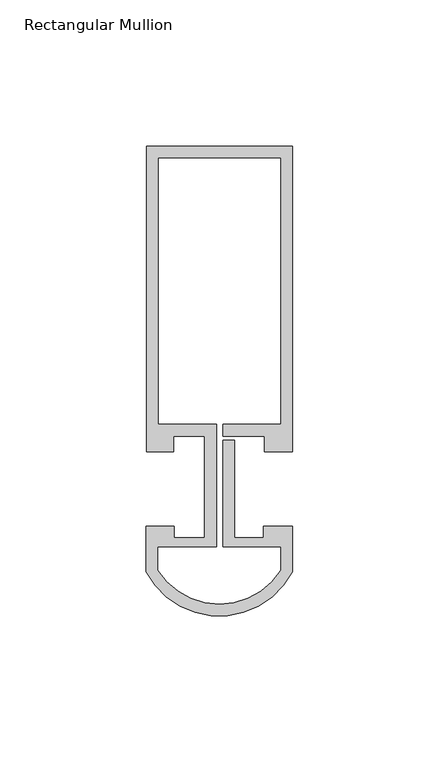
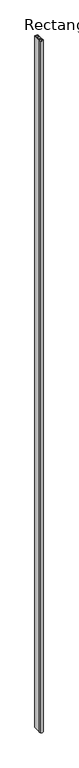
"""IFC4 building model written with IfcOpenShell, lengths in millimetres: member geometry, Rectangular Mullion : Reynaers_CW-50_Transom-Transom_Horizontal_104.5mm_Facecap-07."""

import ifcopenshell
import ifcopenshell.guid

model = None  # the IFC model being written
_history = None  # IfcOwnerHistory: only IFC2X3 demands one
_inside = {}  # id of a spatial element -> (the spatial element, [elements in it])
_under = {}  # id of a project, library or spatial element -> (it, [spatial elements below it])
_declared = {}  # id of a project -> (the project, [libraries it declares])
_typed = {}  # id of a type object -> (the type object, [elements of that type])
_made_of = {}  # id of a material, layer set ... -> (it, [elements and type objects made of it])


def new_model(schema):
    """Start an empty IFC model of exactly this schema.

    Asked for "IFC4X3", IfcOpenShell would pick the latest addendum, in which some entities
    have other attributes; the version numbers below select the first issue.
    IFC2X3 requires an IfcOwnerHistory on every rooted entity: one is made here for all.
    """
    global model, _history
    if schema == "IFC4X3":
        model = ifcopenshell.file(schema_version=(4, 3, 0, 0))
    else:
        model = ifcopenshell.file(schema=schema)
    _inside.clear()
    _under.clear()
    _declared.clear()
    _typed.clear()
    _made_of.clear()
    _history = None
    if model.schema == "IFC2X3":
        org = make("IfcOrganization", Name="unknown")
        user = make(
            "IfcPersonAndOrganization",
            ThePerson=make("IfcPerson", FamilyName="unknown"),
            TheOrganization=org,
        )
        app = make(
            "IfcApplication",
            ApplicationDeveloper=org,
            Version="unknown",
            ApplicationFullName="unknown",
            ApplicationIdentifier="unknown",
        )
        _history = make(
            "IfcOwnerHistory",
            OwningUser=user,
            OwningApplication=app,
            ChangeAction="ADDED",
            CreationDate=0,
        )
    return model


def make(cls, **values):
    """One entity of the class cls with the attributes given. An attribute that is None is left unset."""
    return model.create_entity(
        cls, **{name: value for name, value in values.items() if value is not None}
    )


def rooted(cls, **values):
    """An entity with a GlobalId (a new one), such as an element, a storey or a relation."""
    return make(cls, GlobalId=ifcopenshell.guid.new(), OwnerHistory=_history, **values)


def si_unit(unit_type, name, prefix=None):
    """IfcSIUnit, for example si_unit("LENGTHUNIT", "METRE", prefix="MILLI")."""
    return make("IfcSIUnit", UnitType=unit_type, Prefix=prefix, Name=name)


def assignment(units):
    """IfcUnitAssignment: the units of a project."""
    return None if units is None else make("IfcUnitAssignment", Units=units)


def point(xyz):
    """IfcCartesianPoint."""
    return None if xyz is None else make("IfcCartesianPoint", Coordinates=xyz)


def direction(xyz):
    """IfcDirection."""
    return None if xyz is None else make("IfcDirection", DirectionRatios=xyz)


def frame(location, z_axis=None, x_axis=None):
    """IfcAxis2Placement3D, a coordinate frame: its origin and axes. An axis left out is left unset."""
    return make(
        "IfcAxis2Placement3D",
        Location=point(location),
        Axis=direction(z_axis),
        RefDirection=direction(x_axis),
    )


def frame_2d(location, x_axis=None):
    """IfcAxis2Placement2D, a coordinate frame in the plane: its origin and x axis."""
    return make(
        "IfcAxis2Placement2D", Location=point(location), RefDirection=direction(x_axis)
    )


def origin():
    """The frame at (0, 0, 0) with its axes left unset."""
    return frame((0.0, 0.0, 0.0))


def place(relative_to, where):
    """IfcLocalPlacement: puts the frame where relative to a parent placement (None: the world)."""
    return make(
        "IfcLocalPlacement", PlacementRelTo=relative_to, RelativePlacement=where
    )


def context(
    kind, dimensions, precision=None, world=None, true_north=None, identifier=None
):
    """IfcGeometricRepresentationContext, for example the 3D "Model" context."""
    return make(
        "IfcGeometricRepresentationContext",
        ContextIdentifier=identifier,
        ContextType=kind,
        CoordinateSpaceDimension=dimensions,
        Precision=precision,
        WorldCoordinateSystem=world,
        TrueNorth=true_north,
    )


def project(units=None, contexts=None):
    """IfcProject with its units and contexts."""
    return rooted(
        "IfcProject",
        Name="project",
        RepresentationContexts=contexts,
        UnitsInContext=assignment(units),
    )


def spatial(cls, under=None, at=None, **own):
    """A site, building, storey or space (cls), placed at a placement, below another one or the project."""
    s = rooted(cls, ObjectPlacement=at, **own)
    if under is not None:
        _under.setdefault(under.id(), (under, []))[1].append(s)
    return s


def polyline(points):
    """IfcPolyline through the points."""
    return make("IfcPolyline", Points=[point(p) for p in points])


def circle_curve(where, radius):
    """IfcCircle in the frame where."""
    return make("IfcCircle", Position=where, Radius=radius)


def trimmed(basis, trim1, trim2, sense, master):
    """IfcTrimmedCurve: the piece of a basis curve between two trims."""
    return make(
        "IfcTrimmedCurve",
        BasisCurve=basis,
        Trim1=trim1,
        Trim2=trim2,
        SenseAgreement=sense,
        MasterRepresentation=master,
    )


def segment(curve, same_sense, transition):
    """IfcCompositeCurveSegment."""
    return make(
        "IfcCompositeCurveSegment",
        Transition=transition,
        SameSense=same_sense,
        ParentCurve=curve,
    )


def composite_curve(segments, self_intersect=None):
    """IfcCompositeCurve: segments joined end to end."""
    return make("IfcCompositeCurve", Segments=segments, SelfIntersect=self_intersect)


def outline(outer, holes=None, kind="AREA"):
    """IfcArbitraryClosedProfileDef: a profile drawn as a closed curve; with holes, ...WithVoids."""
    if holes is None:
        return make("IfcArbitraryClosedProfileDef", ProfileType=kind, OuterCurve=outer)
    return make(
        "IfcArbitraryProfileDefWithVoids",
        ProfileType=kind,
        OuterCurve=outer,
        InnerCurves=holes,
    )


def extrude(swept, where, along, depth):
    """IfcExtrudedAreaSolid: the profile swept, set in the frame where, extruded along a direction by depth."""
    return make(
        "IfcExtrudedAreaSolid",
        SweptArea=swept,
        Position=where,
        ExtrudedDirection=direction(along),
        Depth=depth,
    )


def shape(context_of_items, identifier, shape_type, items):
    """IfcShapeRepresentation: the items that make up one representation, for example the "Body"."""
    return make(
        "IfcShapeRepresentation",
        ContextOfItems=context_of_items,
        RepresentationIdentifier=identifier,
        RepresentationType=shape_type,
        Items=items,
    )


def source(mapping_origin, context_of_items, identifier, shape_type, items):
    """IfcRepresentationMap: a shape defined once, which mapped items show again and again."""
    return make(
        "IfcRepresentationMap",
        MappingOrigin=mapping_origin,
        MappedRepresentation=shape(context_of_items, identifier, shape_type, items),
    )


def transform(
    local_origin,
    x_axis=None,
    y_axis=None,
    z_axis=None,
    scale=None,
    scale2=None,
    scale3=None,
    uniform=True,
):
    """IfcCartesianTransformationOperator3D, or its non-uniform kind. x_axis, y_axis, z_axis: its Axis1, 2, 3."""
    if uniform:
        return make(
            "IfcCartesianTransformationOperator3D",
            Axis1=direction(x_axis),
            Axis2=direction(y_axis),
            LocalOrigin=point(local_origin),
            Scale=scale,
            Axis3=direction(z_axis),
        )
    return make(
        "IfcCartesianTransformationOperator3DnonUniform",
        Axis1=direction(x_axis),
        Axis2=direction(y_axis),
        LocalOrigin=point(local_origin),
        Scale=scale,
        Axis3=direction(z_axis),
        Scale2=scale2,
        Scale3=scale3,
    )


def mapped(mapping_source, mapping_target):
    """IfcMappedItem: shows the shape of a source again, moved by a transform."""
    return make(
        "IfcMappedItem", MappingSource=mapping_source, MappingTarget=mapping_target
    )


def made_of(thing, what):
    """Note that an element or type object is made of a material, layer set ...; save() writes the relation."""
    if what is not None:
        _made_of.setdefault(what.id(), (what, []))[1].append(thing)
    return thing


def element(
    cls,
    number,
    at=None,
    inside=None,
    cuts=None,
    type_object=None,
    material=None,
    context=None,
    identifier="Body",
    shape_type=None,
    held_by="IfcProductDefinitionShape",
    body=None,
    shapes=None,
    **own,
):
    """One element of the class cls, such as IfcWall. Its Tag is "e" and its number.

    at: its placement. inside: the storey or other place that contains it. cuts: it is an
    opening in that element (IfcRelVoidsElement). A single representation is given by context,
    identifier, shape_type and body (its items); several are given by shapes. held_by: the class
    of the entity that holds the representations. save() writes the other relations.
    """
    e = rooted(cls, Tag="e%d" % number, ObjectPlacement=at, **own)
    if body is not None:
        shapes = [shape(context, identifier, shape_type, body)]
    if shapes is not None:
        e.Representation = make(held_by, Representations=shapes)
    if inside is not None:
        _inside.setdefault(inside.id(), (inside, []))[1].append(e)
    if cuts is not None:
        rooted(
            "IfcRelVoidsElement", RelatingBuildingElement=cuts, RelatedOpeningElement=e
        )
    if type_object is not None:
        _typed.setdefault(type_object.id(), (type_object, []))[1].append(e)
    return made_of(e, material)


def aggregate(whole, parts):
    """IfcRelAggregates: a whole, such as a stair, and the parts it consists of."""
    return rooted("IfcRelAggregates", RelatingObject=whole, RelatedObjects=parts)


def save(model, path):
    """Write the relations noted so far, then the file.

    IfcRelAggregates (storeys below a building ...), IfcRelContainedInSpatialStructure (elements
    in a storey), IfcRelDefinesByType, IfcRelAssociatesMaterial and IfcRelDeclares: one each for
    every whole, place, type object, material and project.
    """
    for whole, parts in _under.values():
        aggregate(whole, parts)
    for where, things in _inside.values():
        rooted(
            "IfcRelContainedInSpatialStructure",
            RelatedElements=things,
            RelatingStructure=where,
        )
    for kind, things in _typed.values():
        rooted("IfcRelDefinesByType", RelatedObjects=things, RelatingType=kind)
    for what, things in _made_of.values():
        rooted("IfcRelAssociatesMaterial", RelatedObjects=things, RelatingMaterial=what)
    for by, libraries in _declared.values():
        rooted("IfcRelDeclares", RelatingContext=by, RelatedDefinitions=libraries)
    model.write(path)


def rectangular_mullion_e10f46b2(model_context):
    return source(origin(), model_context, "Body", "SweptSolid", [
        extrude(outline(composite_curve([segment(polyline([(25.1995941, 12.7331291), (15.499, 12.7331291), (15.499, 18.1331291), (1.2995941, 18.1331291), (1.2995941, 22.1331291), (21.1995941, 22.1331291), (21.1995941, 113.2331291), (-20.8004059, 113.2331291), (-20.8004059, 22.1331291), (-0.9004059, 22.1331291), (-0.9004059, -19.7331291), (-20.960579, -19.7331291), (-20.960579, -27.7331291)]), True, "CONTINUOUS"), segment(trimmed(circle_curve(frame_2d((0.1195075, -14.5934909)), 24.8398901), [point((-20.960579, -27.7331291))], [point((21.1995941, -27.7331291))], True, "CARTESIAN"), True, "CONTINUOUS"), segment(polyline([(21.1995941, -27.7331291), (21.1995941, -19.7331291), (1.2995941, -19.7331291), (1.2995941, 16.7615089), (5.2995941, 16.7615089), (5.2995941, -16.7331291), (15.2996495, -16.7331291), (15.2996495, -12.7331291), (25.1995941, -12.7331291), (25.1995941, -28.2927678)]), True, "CONTINUOUS"), segment(trimmed(circle_curve(frame_2d((0.1195075, -15.0907737)), 28.3426074), [point((25.1995941, -28.2927678))], [point((-24.960579, -28.2927678))], False, "CARTESIAN"), True, "CONTINUOUS"), segment(polyline([(-24.960579, -28.2927678), (-24.960579, -12.7331291), (-15.2996495, -12.7331291), (-15.2996495, -16.7331291), (-4.9004059, -16.7331291), (-4.9004059, 18.1331291), (-15.499, 18.1331291), (-15.499, 12.7331291), (-24.8004059, 12.7331291), (-24.8004059, 117.2331291), (25.1995941, 117.2331291), (25.1995941, 12.7331291)]), True, "CONTINUOUS")], self_intersect=False)), frame((0.0, 0.0, -12000.0), z_axis=(0.0, 0.0, 1.0), x_axis=(1.0, 0.0, 0.0)), (0.0, 0.0, 1.0), 12000.0),
    ])


if __name__ == "__main__":
    model = new_model("IFC4")
    model_context = context("Model", 3, world=origin())
    ifc_project = project(units=[si_unit("LENGTHUNIT", "METRE", prefix="MILLI")], contexts=[model_context])
    site = spatial("IfcSite", under=ifc_project)
    building = spatial("IfcBuilding", under=site)
    placement = place(None, origin())
    rectangular_mullion_shape = rectangular_mullion_e10f46b2(model_context)
    element("IfcMember", 1, ObjectType="Rectangular Mullion : Reynaers_CW-50_Transom-Transom_Horizontal_104.5mm_Facecap-07", at=placement, inside=building, context=model_context, shape_type="MappedRepresentation", body=[
        mapped(rectangular_mullion_shape, transform((0.0, 0.0, 0.0), x_axis=(1.0, 0.0, 0.0), y_axis=(0.0, 1.0, 0.0), z_axis=(0.0, 0.0, 1.0))),
    ])
    save(model, "model.ifc")
